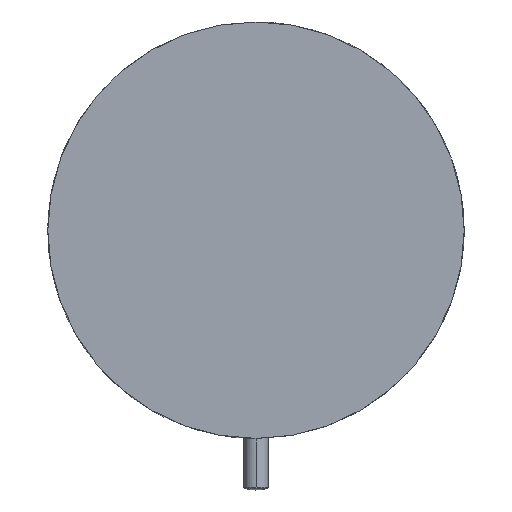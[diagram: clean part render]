
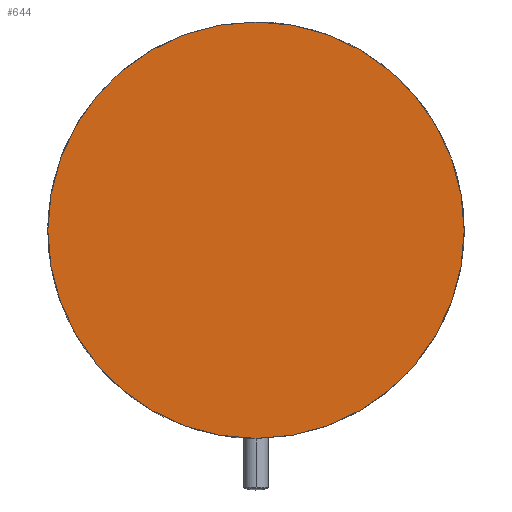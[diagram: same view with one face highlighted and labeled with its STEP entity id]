
A CAD part, top view. The second image highlights one B-rep face of the part: STEP entity #644.
In plain terms, the highlighted planar face has unit normal (0, 0, 1).
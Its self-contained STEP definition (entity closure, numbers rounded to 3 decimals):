
#208 = FACE_OUTER_BOUND ( 'NONE', #215, .T. ) ;
#215 = EDGE_LOOP ( 'NONE', ( #1211, #1933 ) ) ;
#428 = EDGE_CURVE ( 'NONE', #1442, #725, #903, .T. ) ;
#436 = CARTESIAN_POINT ( 'NONE',  ( 55., 82.5, 7. ) ) ;
#484 = CARTESIAN_POINT ( 'NONE',  ( 55., 82.5, 7. ) ) ;
#515 = AXIS2_PLACEMENT_3D ( 'NONE', #484, #961, #1586 ) ;
#522 = PLANE ( 'NONE',  #1721 ) ;
#586 = CARTESIAN_POINT ( 'NONE',  ( 55., -2.5, 7. ) ) ;
#644 = ADVANCED_FACE ( 'NONE', ( #208 ), #522, .T. ) ;
#725 = VERTEX_POINT ( 'NONE', #1840 ) ;
#751 = DIRECTION ( 'NONE',  ( 0., -1., 0. ) ) ;
#780 = DIRECTION ( 'NONE',  ( 0., -1., 0. ) ) ;
#903 = CIRCLE ( 'NONE', #515, 85. ) ;
#906 = CIRCLE ( 'NONE', #943, 85. ) ;
#943 = AXIS2_PLACEMENT_3D ( 'NONE', #436, #1080, #751 ) ;
#961 = DIRECTION ( 'NONE',  ( 0., 0., -1. ) ) ;
#1077 = EDGE_CURVE ( 'NONE', #725, #1442, #906, .T. ) ;
#1080 = DIRECTION ( 'NONE',  ( 0., 0., -1. ) ) ;
#1143 = CARTESIAN_POINT ( 'NONE',  ( 65.31, 166.469, 7. ) ) ;
#1211 = ORIENTED_EDGE ( 'NONE', *, *, #428, .F. ) ;
#1442 = VERTEX_POINT ( 'NONE', #586 ) ;
#1586 = DIRECTION ( 'NONE',  ( 0., -1., 0. ) ) ;
#1595 = DIRECTION ( 'NONE',  ( 0., 0., 1. ) ) ;
#1721 = AXIS2_PLACEMENT_3D ( 'NONE', #1143, #1595, #780 ) ;
#1840 = CARTESIAN_POINT ( 'NONE',  ( 55., 167.5, 7. ) ) ;
#1933 = ORIENTED_EDGE ( 'NONE', *, *, #1077, .F. ) ;
